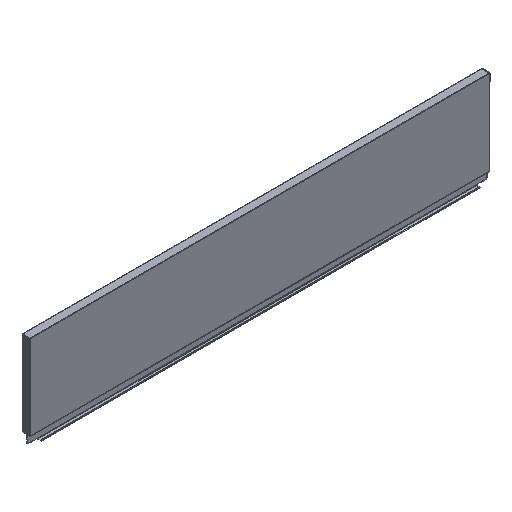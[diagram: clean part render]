
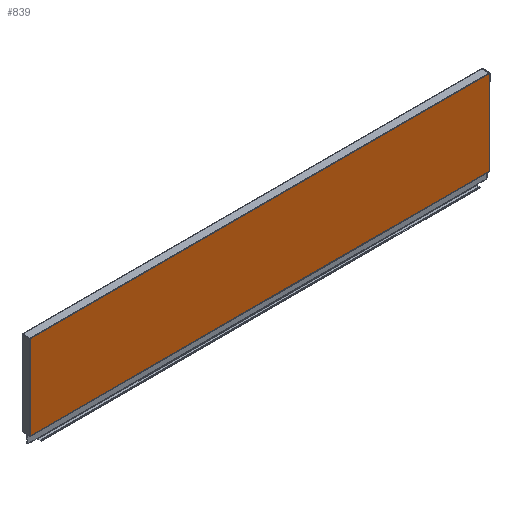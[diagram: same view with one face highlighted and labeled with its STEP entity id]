
A CAD part, isometric view. The second image highlights one B-rep face of the part: STEP entity #839.
In plain terms, the highlighted planar face has unit normal (0, -1, 0).
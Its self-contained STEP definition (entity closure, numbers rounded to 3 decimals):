
#173 = CARTESIAN_POINT ( 'NONE',  ( -454., -6., 183.5 ) ) ;
#175 = CARTESIAN_POINT ( 'NONE',  ( -454., -6., 17.5 ) ) ;
#177 = CARTESIAN_POINT ( 'NONE',  ( -453.5, -6., 17.5 ) ) ;
#178 = CARTESIAN_POINT ( 'NONE',  ( -453.5, -6., 17. ) ) ;
#179 = CARTESIAN_POINT ( 'NONE',  ( 453.5, -6., 17. ) ) ;
#180 = CARTESIAN_POINT ( 'NONE',  ( 453.5, -6., 17.5 ) ) ;
#181 = CARTESIAN_POINT ( 'NONE',  ( 454., -6., 17.5 ) ) ;
#182 = CARTESIAN_POINT ( 'NONE',  ( 454., -6., 183.5 ) ) ;
#183 = CARTESIAN_POINT ( 'NONE',  ( 454., -6., 184. ) ) ;
#184 = CARTESIAN_POINT ( 'NONE',  ( -454., -6., 184. ) ) ;
#410 = DIRECTION ( 'NONE',  ( 1., 0., 0. ) ) ;
#429 = DIRECTION ( 'NONE',  ( 0., -1., 0. ) ) ;
#430 = CARTESIAN_POINT ( 'NONE',  ( -455., -6., 17. ) ) ;
#433 = PLANE ( 'NONE',  #736 ) ;
#472 = VERTEX_POINT ( 'NONE', #184 ) ;
#473 = VERTEX_POINT ( 'NONE', #183 ) ;
#474 = VERTEX_POINT ( 'NONE', #182 ) ;
#475 = VERTEX_POINT ( 'NONE', #181 ) ;
#476 = VERTEX_POINT ( 'NONE', #180 ) ;
#477 = VERTEX_POINT ( 'NONE', #179 ) ;
#478 = VERTEX_POINT ( 'NONE', #178 ) ;
#479 = VERTEX_POINT ( 'NONE', #177 ) ;
#480 = VERTEX_POINT ( 'NONE', #175 ) ;
#481 = VERTEX_POINT ( 'NONE', #173 ) ;
#614 = EDGE_CURVE ( 'NONE', #472, #481, #1762, .T. ) ;
#615 = EDGE_CURVE ( 'NONE', #472, #473, #1764, .T. ) ;
#616 = EDGE_CURVE ( 'NONE', #473, #474, #1766, .T. ) ;
#617 = EDGE_CURVE ( 'NONE', #474, #475, #1768, .T. ) ;
#618 = EDGE_CURVE ( 'NONE', #476, #475, #1770, .T. ) ;
#619 = EDGE_CURVE ( 'NONE', #477, #476, #1772, .T. ) ;
#620 = EDGE_CURVE ( 'NONE', #478, #477, #1774, .T. ) ;
#621 = EDGE_CURVE ( 'NONE', #479, #478, #1776, .T. ) ;
#622 = EDGE_CURVE ( 'NONE', #480, #479, #1778, .T. ) ;
#623 = EDGE_CURVE ( 'NONE', #481, #480, #1780, .T. ) ;
#736 = AXIS2_PLACEMENT_3D ( 'NONE', #430, #429, #410 ) ;
#839 = ADVANCED_FACE ( 'NONE', ( #1900 ), #433, .T. ) ;
#985 = EDGE_LOOP ( 'NONE', ( #1515, #1514, #1513, #1512, #1511, #1510, #1509, #1508, #1507, #1506 ) ) ;
#1506 = ORIENTED_EDGE ( 'NONE', *, *, #614, .T. ) ;
#1507 = ORIENTED_EDGE ( 'NONE', *, *, #615, .F. ) ;
#1508 = ORIENTED_EDGE ( 'NONE', *, *, #616, .F. ) ;
#1509 = ORIENTED_EDGE ( 'NONE', *, *, #617, .F. ) ;
#1510 = ORIENTED_EDGE ( 'NONE', *, *, #618, .T. ) ;
#1511 = ORIENTED_EDGE ( 'NONE', *, *, #619, .T. ) ;
#1512 = ORIENTED_EDGE ( 'NONE', *, *, #620, .T. ) ;
#1513 = ORIENTED_EDGE ( 'NONE', *, *, #621, .T. ) ;
#1514 = ORIENTED_EDGE ( 'NONE', *, *, #622, .T. ) ;
#1515 = ORIENTED_EDGE ( 'NONE', *, *, #623, .T. ) ;
#1762 = LINE ( 'NONE', #2296, #1763 ) ;
#1763 = VECTOR ( 'NONE', #2294, 1000. ) ;
#1764 = LINE ( 'NONE', #2293, #1765 ) ;
#1765 = VECTOR ( 'NONE', #2292, 1000. ) ;
#1766 = LINE ( 'NONE', #2291, #1767 ) ;
#1767 = VECTOR ( 'NONE', #2290, 1000. ) ;
#1768 = LINE ( 'NONE', #2287, #1769 ) ;
#1769 = VECTOR ( 'NONE', #2286, 1000. ) ;
#1770 = LINE ( 'NONE', #2285, #1771 ) ;
#1771 = VECTOR ( 'NONE', #2284, 1000. ) ;
#1772 = LINE ( 'NONE', #2282, #1773 ) ;
#1773 = VECTOR ( 'NONE', #2281, 1000. ) ;
#1774 = LINE ( 'NONE', #2280, #1775 ) ;
#1775 = VECTOR ( 'NONE', #2278, 1000. ) ;
#1776 = LINE ( 'NONE', #2277, #1777 ) ;
#1777 = VECTOR ( 'NONE', #2275, 1000. ) ;
#1778 = LINE ( 'NONE', #2274, #1779 ) ;
#1779 = VECTOR ( 'NONE', #2272, 1000. ) ;
#1780 = LINE ( 'NONE', #2271, #1781 ) ;
#1781 = VECTOR ( 'NONE', #2270, 1000. ) ;
#1900 = FACE_OUTER_BOUND ( 'NONE', #985, .T. ) ;
#2270 = DIRECTION ( 'NONE',  ( 0., 0., -1. ) ) ;
#2271 = CARTESIAN_POINT ( 'NONE',  ( -454., -6., 202.385 ) ) ;
#2272 = DIRECTION ( 'NONE',  ( 1., 0., 0. ) ) ;
#2274 = CARTESIAN_POINT ( 'NONE',  ( -455., -6., 17.5 ) ) ;
#2275 = DIRECTION ( 'NONE',  ( 0., 0., -1. ) ) ;
#2277 = CARTESIAN_POINT ( 'NONE',  ( -453.5, -6., 17.5 ) ) ;
#2278 = DIRECTION ( 'NONE',  ( 1., 0., 0. ) ) ;
#2280 = CARTESIAN_POINT ( 'NONE',  ( -455., -6., 17. ) ) ;
#2281 = DIRECTION ( 'NONE',  ( 0., 0., 1. ) ) ;
#2282 = CARTESIAN_POINT ( 'NONE',  ( 453.5, -6., 15.3 ) ) ;
#2284 = DIRECTION ( 'NONE',  ( 1., 0., 0. ) ) ;
#2285 = CARTESIAN_POINT ( 'NONE',  ( 453.5, -6., 17.5 ) ) ;
#2286 = DIRECTION ( 'NONE',  ( 0., 0., -1. ) ) ;
#2287 = CARTESIAN_POINT ( 'NONE',  ( 454., -6., 202.385 ) ) ;
#2290 = DIRECTION ( 'NONE',  ( 0., 0., -1. ) ) ;
#2291 = CARTESIAN_POINT ( 'NONE',  ( 454., -6., 202.385 ) ) ;
#2292 = DIRECTION ( 'NONE',  ( 1., 0., 0. ) ) ;
#2293 = CARTESIAN_POINT ( 'NONE',  ( -455., -6., 184. ) ) ;
#2294 = DIRECTION ( 'NONE',  ( 0., 0., -1. ) ) ;
#2296 = CARTESIAN_POINT ( 'NONE',  ( -454., -6., 202.385 ) ) ;
